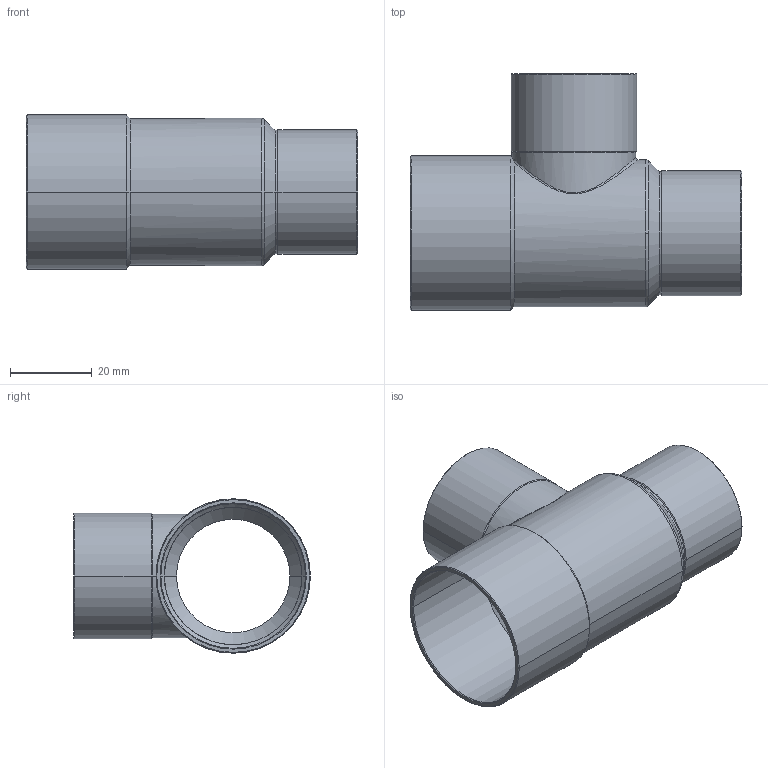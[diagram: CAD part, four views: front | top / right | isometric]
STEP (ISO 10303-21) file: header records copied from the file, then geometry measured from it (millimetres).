
FILE_DESCRIPTION((''),'2;1');
FILE_NAME('G:\Technics\CAD\Bauteile\15130\15130352828.stp','2005-11-03T13:42:57',('boden'),(''),'Autodesk Inventor 8','Autodesk Inventor 8','');
FILE_SCHEMA(('AUTOMOTIVE_DESIGN { 1 0 10303 214 1 1 1 1 }'));
Length unit declared in the file: millimetre
Products named in the file (1): 15130352828
Bounding box: 81 x 57.88 x 37.75 mm (x, y, z)
Volume: 12621.6 mm3; surface area: 20984.3 mm2
Topology: 1 solids, 1 shells, 59 faces, 133 edges, 75 vertices
Faces by surface type: cone 28, cylinder 24, plane 3, torus 2, bspline 2
Entity records: 2170 total; most frequent: CARTESIAN_POINT 820, DIRECTION 298, ORIENTED_EDGE 266, EDGE_CURVE 133, AXIS2_PLACEMENT_3D 123, VERTEX_POINT 75, CIRCLE 65, EDGE_LOOP 62
